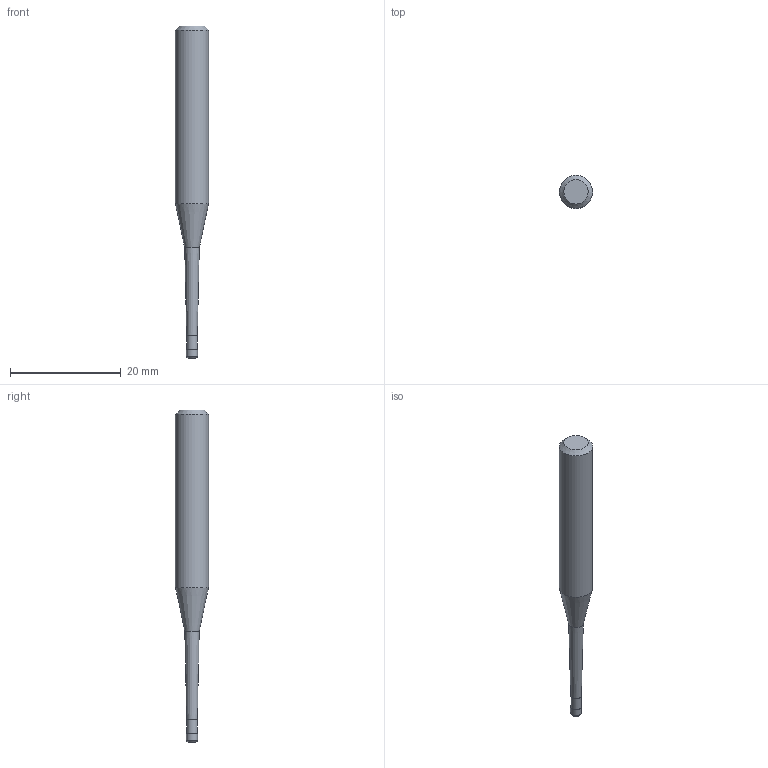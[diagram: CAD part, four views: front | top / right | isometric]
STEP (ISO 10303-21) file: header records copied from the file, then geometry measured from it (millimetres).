
FILE_DESCRIPTION((''),'2;1');
FILE_NAME('C:\Users\nsx150\AppData\Local\Temp\Mastercam 2021\YKS1SUSFZB\TEMP.step','2025-06-23T14:04:39',(''),(''),'STEP Write','Mastercam 2021 ... CNC Software, Inc.','');
FILE_SCHEMA(('AUTOMOTIVE_DESIGN'));
Length unit declared in the file: millimetre
Products named in the file (1): None
Bounding box: 6 x 6 x 60 mm (x, y, z)
Volume: 1101.4 mm3; surface area: 880.8 mm2
Topology: 2 solids, 2 shells, 11 faces, 16 edges, 9 vertices
Faces by surface type: plane 4, cylinder 3, cone 3, torus 1
Full cylindrical faces by diameter (mm): 1.92 x1, 2 x1, 6 x1
Entity records: 253 total; most frequent: DIRECTION 44, CARTESIAN_POINT 31, AXIS2_PLACEMENT_3D 22, ORIENTED_EDGE 18, EDGE_LOOP 18, STYLED_ITEM 14, ADVANCED_FACE 11, FACE_BOUND 11
